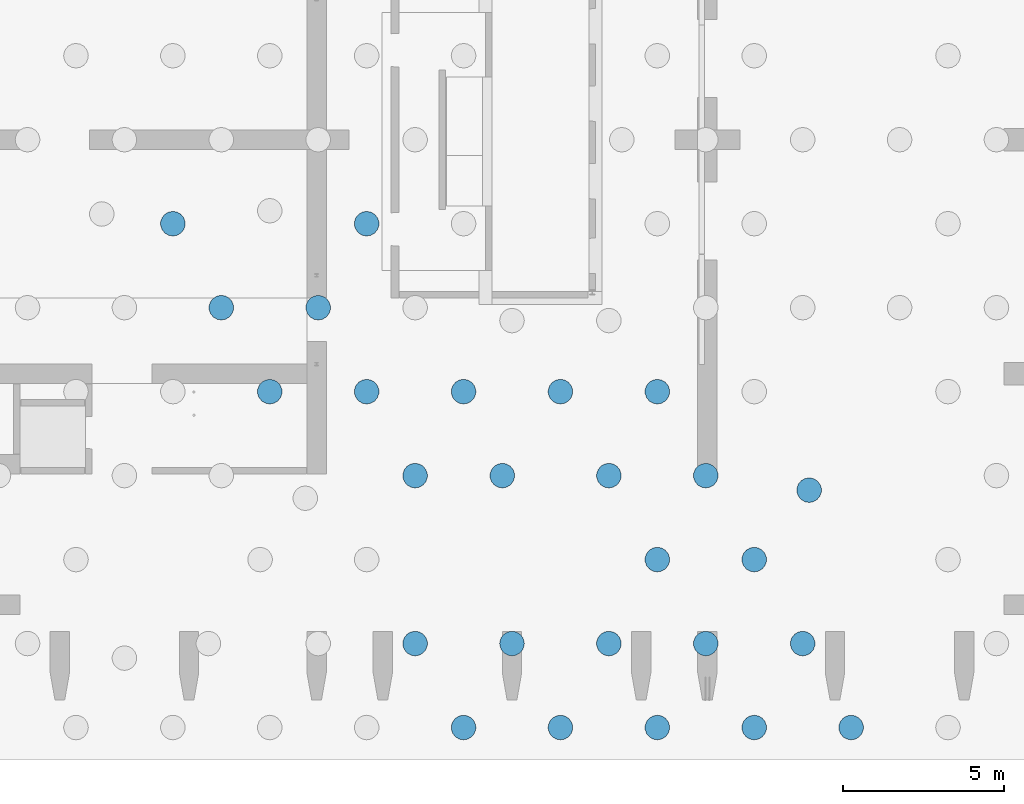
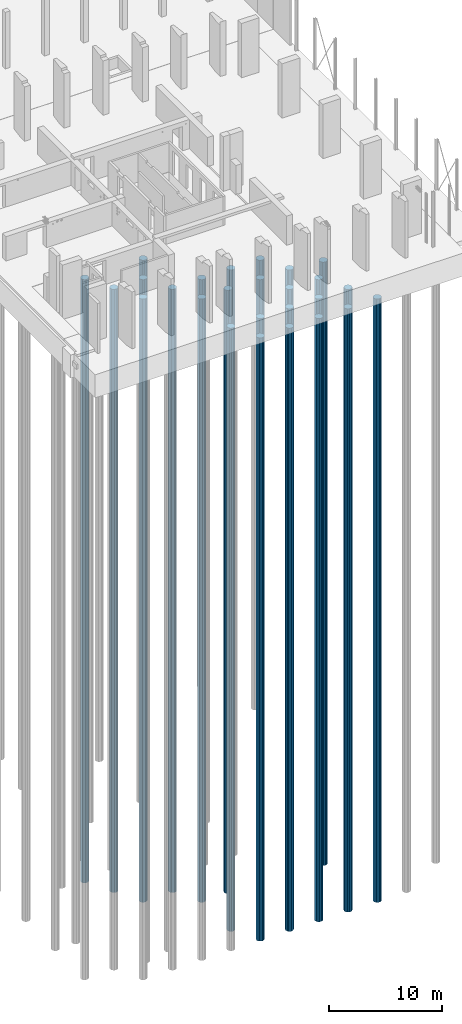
# One storey, part 2 of 26: 26 piles.
"""IFC2X3 building model written with IfcOpenShell, lengths in millimetres."""

from ifc_helpers import new_model, entity, si_unit, converted_unit, derived_unit, direction, frame, origin, place, context, subcontext, project, spatial, polyline, outline, extrude, material, element, save


model = new_model("IFC2X3")

# Units and contexts
model_context = context("Model", 3, precision=0.01, world=origin(), true_north=direction((6.12303176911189e-17, 1.0)))
body_context = subcontext(model_context, "Body", "Model", "MODEL_VIEW")
ifc_project = project(units=[si_unit("LENGTHUNIT", "METRE", prefix="MILLI"), si_unit("AREAUNIT", "SQUARE_METRE"), si_unit("VOLUMEUNIT", "CUBIC_METRE"), converted_unit("PLANEANGLEUNIT", "DEGREE", entity("IfcRatioMeasure", 0.0174532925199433), si_unit("PLANEANGLEUNIT", "RADIAN"), dimensions=[0, 0, 0, 0, 0, 0, 0]), si_unit("MASSUNIT", "GRAM", prefix="KILO"), derived_unit("MASSDENSITYUNIT", [(si_unit("MASSUNIT", "GRAM", prefix="KILO"), 1), (si_unit("LENGTHUNIT", "METRE"), -3)]), si_unit("TIMEUNIT", "SECOND"), si_unit("FREQUENCYUNIT", "HERTZ"), si_unit("THERMODYNAMICTEMPERATUREUNIT", "DEGREE_CELSIUS"), derived_unit("THERMALTRANSMITTANCEUNIT", [(si_unit("MASSUNIT", "GRAM", prefix="KILO"), 1), (si_unit("THERMODYNAMICTEMPERATUREUNIT", "KELVIN"), -1), (si_unit("TIMEUNIT", "SECOND"), -3)]), derived_unit("VOLUMETRICFLOWRATEUNIT", [(si_unit("LENGTHUNIT", "METRE"), 3), (si_unit("TIMEUNIT", "SECOND"), -1)]), si_unit("ELECTRICCURRENTUNIT", "AMPERE"), si_unit("ELECTRICVOLTAGEUNIT", "VOLT"), si_unit("POWERUNIT", "WATT"), si_unit("FORCEUNIT", "NEWTON", prefix="KILO"), si_unit("ILLUMINANCEUNIT", "LUX"), si_unit("LUMINOUSFLUXUNIT", "LUMEN"), si_unit("LUMINOUSINTENSITYUNIT", "CANDELA"), derived_unit("USERDEFINED", [(si_unit("MASSUNIT", "GRAM", prefix="KILO"), -1), (si_unit("LENGTHUNIT", "METRE"), -2), (si_unit("TIMEUNIT", "SECOND"), 3), (si_unit("LUMINOUSFLUXUNIT", "LUMEN"), 1)]), derived_unit("LINEARVELOCITYUNIT", [(si_unit("LENGTHUNIT", "METRE"), 1), (si_unit("TIMEUNIT", "SECOND"), -1)]), si_unit("PRESSUREUNIT", "PASCAL"), derived_unit("USERDEFINED", [(si_unit("LENGTHUNIT", "METRE"), -2), (si_unit("MASSUNIT", "GRAM", prefix="KILO"), 1), (si_unit("TIMEUNIT", "SECOND"), -2)])], contexts=[model_context])

# Site, building, storey
site_placement = place(None, origin())
site = spatial("IfcSite", under=ifc_project, at=site_placement, Name="Default", CompositionType="ELEMENT")
building_placement = place(site_placement, origin())
building = spatial("IfcBuilding", under=site, at=building_placement, Name="niet gebruiken", CompositionType="ELEMENT")
storey_placement = place(building_placement, origin())
storey = spatial("IfcBuildingStorey", under=building, at=storey_placement, Name="00 begane grond", CompositionType="ELEMENT", Elevation=0.0)

# Piles
ifc_material = material(Name="NLRS_f2_beton ihwg")
pile_1_placement = place(storey_placement, origin())
element("IfcPile", 1, at=pile_1_placement, inside=storey, material=ifc_material, Name="NLRS_17.12_SFO_TLB_funderingspaal grondverdringend_gen:Tubex_r762/950", ObjectType="NLRS_17.12_SFO_TLB_funderingspaal grondverdringend_gen:Tubex_r762/950", context=body_context, shape_type="SweptSolid", body=[
    extrude(outline(polyline([(-33.2063379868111, -379.550179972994), (33.2063379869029, -379.550179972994), (161.017557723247, -345.303266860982), (269.407683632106, -269.407683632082), (345.303266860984, -161.017557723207), (379.55017997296, -33.2063379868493), (368.017739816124, 98.6100561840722), (312.096928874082, 218.532622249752), (218.532622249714, 312.096928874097), (98.610056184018, 368.017739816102), (33.2063379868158, 379.550179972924), (-33.2063379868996, 379.550179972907), (-161.017557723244, 345.303266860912), (-269.407683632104, 269.407683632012), (-345.303266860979, 161.017557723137), (-379.550179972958, 33.2063379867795), (-368.017739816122, -98.610056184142), (-312.09692887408, -218.532622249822), (-218.532622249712, -312.096928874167), (-98.6100561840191, -368.017739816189), (-33.2063379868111, -379.550179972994)])), frame((131250.0, 14900.0, -68100.0), z_axis=(0.0, 0.0, 1.0), x_axis=(0.0871557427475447, -0.996194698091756, 0.0)), (0.0, 0.0, 1.0), 65380.0),
])
pile_2_placement = place(storey_placement, origin())
element("IfcPile", 2, at=pile_2_placement, inside=storey, material=ifc_material, Name="NLRS_17.12_SFO_TLB_funderingspaal grondverdringend_gen:Tubex_r762/950", ObjectType="NLRS_17.12_SFO_TLB_funderingspaal grondverdringend_gen:Tubex_r762/950", context=body_context, shape_type="SweptSolid", body=[
    extrude(outline(polyline([(-33.2063379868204, -379.550179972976), (33.2063379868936, -379.550179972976), (161.017557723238, -345.303266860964), (269.407683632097, -269.407683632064), (345.303266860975, -161.017557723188), (379.550179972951, -33.2063379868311), (368.017739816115, 98.6100561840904), (312.096928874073, 218.532622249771), (218.532622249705, 312.096928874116), (98.6100561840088, 368.01773981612), (33.2063379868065, 379.550179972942), (-33.2063379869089, 379.550179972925), (-161.017557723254, 345.30326686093), (-269.407683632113, 269.40768363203), (-345.303266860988, 161.017557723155), (-379.550179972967, 33.2063379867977), (-368.017739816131, -98.6100561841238), (-312.096928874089, -218.532622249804), (-218.532622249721, -312.096928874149), (-98.6100561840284, -368.017739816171), (-33.2063379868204, -379.550179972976)])), frame((137250.0, 14900.0, -68100.0), z_axis=(0.0, 0.0, 1.0), x_axis=(0.0871557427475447, -0.996194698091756, 0.0)), (0.0, 0.0, 1.0), 65380.0),
])
pile_3_placement = place(storey_placement, origin())
element("IfcPile", 3, at=pile_3_placement, inside=storey, material=ifc_material, Name="NLRS_17.12_SFO_TLB_funderingspaal grondverdringend_gen:Tubex_r762/950", ObjectType="NLRS_17.12_SFO_TLB_funderingspaal grondverdringend_gen:Tubex_r762/950", context=body_context, shape_type="SweptSolid", body=[
    extrude(outline(polyline([(-33.2063379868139, -379.550179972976), (33.2063379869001, -379.550179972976), (161.017557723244, -345.303266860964), (269.407683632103, -269.407683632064), (345.303266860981, -161.017557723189), (379.550179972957, -33.2063379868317), (368.017739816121, 98.6100561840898), (312.09692887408, 218.53262224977), (218.532622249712, 312.096928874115), (98.6100561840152, 368.017739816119), (33.206337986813, 379.550179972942), (-33.2063379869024, 379.550179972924), (-161.017557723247, 345.30326686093), (-269.407683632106, 269.40768363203), (-345.303266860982, 161.017557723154), (-379.55017997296, 33.2063379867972), (-368.017739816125, -98.6100561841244), (-312.096928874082, -218.532622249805), (-218.532622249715, -312.09692887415), (-98.6100561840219, -368.017739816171), (-33.2063379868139, -379.550179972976)])), frame((135750.0, 12300.0, -68100.0), z_axis=(0.0, 0.0, 1.0), x_axis=(0.0871557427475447, -0.996194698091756, 0.0)), (0.0, 0.0, 1.0), 65380.0),
])
pile_4_placement = place(storey_placement, origin())
element("IfcPile", 4, at=pile_4_placement, inside=storey, material=ifc_material, Name="NLRS_17.12_SFO_TLB_funderingspaal grondverdringend_gen:Tubex_r762/950", ObjectType="NLRS_17.12_SFO_TLB_funderingspaal grondverdringend_gen:Tubex_r762/950", context=body_context, shape_type="SweptSolid", body=[
    extrude(outline(polyline([(-33.2063379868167, -379.550179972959), (33.2063379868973, -379.550179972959), (161.017557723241, -345.303266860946), (269.4076836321, -269.407683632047), (345.303266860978, -161.017557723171), (379.550179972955, -33.206337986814), (368.017739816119, 98.6100561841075), (312.096928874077, 218.532622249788), (218.532622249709, 312.096928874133), (98.6100561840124, 368.017739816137), (33.2063379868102, 379.550179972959), (-33.2063379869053, 379.550179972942), (-161.01755772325, 345.303266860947), (-269.407683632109, 269.407683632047), (-345.303266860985, 161.017557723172), (-379.550179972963, 33.2063379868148), (-368.017739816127, -98.6100561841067), (-312.096928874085, -218.532622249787), (-218.532622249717, -312.096928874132), (-98.6100561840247, -368.017739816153), (-33.2063379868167, -379.550179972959)])), frame((132750.0, 12300.0, -68100.0), z_axis=(0.0, 0.0, 1.0), x_axis=(0.0871557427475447, -0.996194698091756, 0.0)), (0.0, 0.0, 1.0), 65380.0),
])
pile_5_placement = place(storey_placement, origin())
element("IfcPile", 5, at=pile_5_placement, inside=storey, material=ifc_material, Name="NLRS_17.12_SFO_TLB_funderingspaal grondverdringend_gen:Tubex_r762/950", ObjectType="NLRS_17.12_SFO_TLB_funderingspaal grondverdringend_gen:Tubex_r762/950", context=body_context, shape_type="SweptSolid", body=[
    extrude(outline(polyline([(-33.206337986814, -379.550179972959), (33.206337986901, -379.550179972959), (161.017557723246, -345.303266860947), (269.407683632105, -269.407683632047), (345.303266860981, -161.017557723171), (379.550179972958, -33.2063379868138), (368.017739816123, 98.6100561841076), (312.09692887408, 218.532622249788), (218.532622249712, 312.096928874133), (98.6100561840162, 368.017739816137), (33.2063379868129, 379.550179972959), (-33.2063379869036, 379.550179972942), (-161.017557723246, 345.303266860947), (-269.407683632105, 269.407683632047), (-345.303266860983, 161.017557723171), (-379.550179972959, 33.2063379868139), (-368.017739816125, -98.6100561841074), (-312.096928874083, -218.532622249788), (-218.532622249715, -312.096928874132), (-98.6100561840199, -368.017739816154), (-33.206337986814, -379.550179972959)])), frame((134250.0, 9700.0, -68100.0), z_axis=(0.0, 0.0, 1.0), x_axis=(0.0871557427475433, -0.996194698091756, 0.0)), (0.0, 0.0, 1.0), 65380.0),
])
pile_6_placement = place(storey_placement, origin())
element("IfcPile", 6, at=pile_6_placement, inside=storey, material=ifc_material, Name="NLRS_17.12_SFO_TLB_funderingspaal grondverdringend_gen:Tubex_r762/950", ObjectType="NLRS_17.12_SFO_TLB_funderingspaal grondverdringend_gen:Tubex_r762/950", context=body_context, shape_type="SweptSolid", body=[
    extrude(outline(polyline([(-33.2063379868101, -379.550179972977), (33.2063379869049, -379.550179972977), (161.01755772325, -345.303266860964), (269.407683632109, -269.407683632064), (345.303266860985, -161.017557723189), (379.550179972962, -33.2063379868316), (368.017739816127, 98.6100561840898), (312.096928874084, 218.53262224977), (218.532622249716, 312.096928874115), (98.6100561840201, 368.017739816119), (33.2063379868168, 379.550179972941), (-33.2063379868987, 379.550179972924), (-161.017557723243, 345.303266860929), (-269.407683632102, 269.407683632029), (-345.303266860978, 161.017557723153), (-379.550179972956, 33.2063379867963), (-368.01773981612, -98.6100561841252), (-312.096928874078, -218.532622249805), (-218.53262224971, -312.09692887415), (-98.6100561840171, -368.017739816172), (-33.2063379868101, -379.550179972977)])), frame((137250.0, 9700.0, -68100.0), z_axis=(0.0, 0.0, 1.0), x_axis=(0.0871557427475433, -0.996194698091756, 0.0)), (0.0, 0.0, 1.0), 65380.0),
])
pile_7_placement = place(storey_placement, origin())
element("IfcPile", 7, at=pile_7_placement, inside=storey, material=ifc_material, Name="NLRS_17.12_SFO_TLB_funderingspaal grondverdringend_gen:Tubex_r762/950", ObjectType="NLRS_17.12_SFO_TLB_funderingspaal grondverdringend_gen:Tubex_r762/950", context=body_context, shape_type="SweptSolid", body=[
    extrude(outline(polyline([(-33.2063379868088, -379.550179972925), (33.2063379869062, -379.550179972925), (161.017557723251, -345.303266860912), (269.40768363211, -269.407683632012), (345.303266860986, -161.017557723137), (379.550179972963, -33.2063379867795), (368.017739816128, 98.6100561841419), (312.096928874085, 218.532622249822), (218.532622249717, 312.096928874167), (98.6100561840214, 368.017739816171), (33.2063379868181, 379.550179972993), (-33.2063379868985, 379.550179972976), (-161.017557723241, 345.303266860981), (-269.4076836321, 269.407683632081), (-345.303266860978, 161.017557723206), (-379.550179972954, 33.2063379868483), (-368.01773981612, -98.610056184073), (-312.096928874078, -218.532622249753), (-218.53262224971, -312.096928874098), (-98.6100561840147, -368.01773981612), (-33.2063379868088, -379.550179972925)])), frame((140250.0, 9700.0, -68100.0), z_axis=(0.0, 0.0, 1.0), x_axis=(0.0871557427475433, -0.996194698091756, 0.0)), (0.0, 0.0, 1.0), 65380.0),
])
pile_8_placement = place(storey_placement, origin())
element("IfcPile", 8, at=pile_8_placement, inside=storey, material=ifc_material, Name="NLRS_17.12_SFO_TLB_funderingspaal grondverdringend_gen:Tubex_r762/950", ObjectType="NLRS_17.12_SFO_TLB_funderingspaal grondverdringend_gen:Tubex_r762/950", context=body_context, shape_type="SweptSolid", body=[
    extrude(outline(polyline([(-33.2063379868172, -379.550179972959), (33.2063379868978, -379.550179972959), (161.017557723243, -345.303266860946), (269.407683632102, -269.407683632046), (345.303266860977, -161.017557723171), (379.550179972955, -33.2063379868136), (368.01773981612, 98.6100561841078), (312.096928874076, 218.532622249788), (218.532622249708, 312.096928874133), (98.610056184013, 368.017739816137), (33.2063379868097, 379.550179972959), (-33.2063379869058, 379.550179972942), (-161.017557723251, 345.303266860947), (-269.407683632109, 269.407683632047), (-345.303266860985, 161.017557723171), (-379.550179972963, 33.2063379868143), (-368.017739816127, -98.6100561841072), (-312.096928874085, -218.532622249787), (-218.532622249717, -312.096928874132), (-98.6100561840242, -368.017739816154), (-33.2063379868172, -379.550179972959)])), frame((143250.0, 9700.0, -68100.0), z_axis=(0.0, 0.0, 1.0), x_axis=(0.0871557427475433, -0.996194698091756, 0.0)), (0.0, 0.0, 1.0), 65380.0),
])
pile_9_placement = place(storey_placement, origin())
element("IfcPile", 9, at=pile_9_placement, inside=storey, material=ifc_material, Name="NLRS_17.12_SFO_TLB_funderingspaal grondverdringend_gen:Tubex_r762/950", ObjectType="NLRS_17.12_SFO_TLB_funderingspaal grondverdringend_gen:Tubex_r762/950", context=body_context, shape_type="SweptSolid", body=[
    extrude(outline(polyline([(-33.2063379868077, -379.550179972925), (33.2063379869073, -379.550179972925), (161.017557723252, -345.303266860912), (269.407683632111, -269.407683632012), (345.303266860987, -161.017557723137), (379.550179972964, -33.2063379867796), (368.017739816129, 98.6100561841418), (312.096928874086, 218.532622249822), (218.532622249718, 312.096928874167), (98.6100561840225, 368.017739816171), (33.2063379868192, 379.550179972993), (-33.2063379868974, 379.550179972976), (-161.01755772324, 345.303266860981), (-269.407683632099, 269.407683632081), (-345.303266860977, 161.017557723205), (-379.550179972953, 33.2063379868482), (-368.017739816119, -98.6100561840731), (-312.096928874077, -218.532622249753), (-218.532622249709, -312.096928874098), (-98.6100561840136, -368.01773981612), (-33.2063379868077, -379.550179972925)])), frame((146250.0, 9700.0, -68100.0), z_axis=(0.0, 0.0, 1.0), x_axis=(0.0871557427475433, -0.996194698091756, 0.0)), (0.0, 0.0, 1.0), 65380.0),
])
pile_10_placement = place(storey_placement, origin())
element("IfcPile", 10, at=pile_10_placement, inside=storey, material=ifc_material, Name="NLRS_17.12_SFO_TLB_funderingspaal grondverdringend_gen:Tubex_r762/950", ObjectType="NLRS_17.12_SFO_TLB_funderingspaal grondverdringend_gen:Tubex_r762/950", context=body_context, shape_type="SweptSolid", body=[
    extrude(outline(polyline([(-33.2063379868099, -379.550179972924), (33.2063379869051, -379.550179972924), (161.01755772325, -345.303266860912), (269.407683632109, -269.407683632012), (345.303266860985, -161.017557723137), (379.550179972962, -33.2063379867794), (368.017739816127, 98.610056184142), (312.096928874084, 218.532622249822), (218.532622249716, 312.096928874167), (98.6100561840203, 368.017739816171), (33.206337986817, 379.550179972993), (-33.2063379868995, 379.550179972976), (-161.017557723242, 345.303266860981), (-269.407683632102, 269.407683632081), (-345.303266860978, 161.017557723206), (-379.550179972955, 33.2063379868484), (-368.017739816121, -98.6100561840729), (-312.096928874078, -218.532622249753), (-218.53262224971, -312.096928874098), (-98.6100561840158, -368.01773981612), (-33.2063379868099, -379.550179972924)])), frame((150950.0, 6650.0, -68100.0), z_axis=(0.0, 0.0, 1.0), x_axis=(0.0871557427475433, -0.996194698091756, 0.0)), (0.0, 0.0, 1.0), 65380.0),
])
pile_11_placement = place(storey_placement, origin())
element("IfcPile", 11, at=pile_11_placement, inside=storey, material=ifc_material, Name="NLRS_17.12_SFO_TLB_funderingspaal grondverdringend_gen:Tubex_r762/950", ObjectType="NLRS_17.12_SFO_TLB_funderingspaal grondverdringend_gen:Tubex_r762/950", context=body_context, shape_type="SweptSolid", body=[
    extrude(outline(polyline([(-33.2063379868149, -379.550179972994), (33.2063379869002, -379.550179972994), (161.017557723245, -345.303266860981), (269.407683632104, -269.407683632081), (345.30326686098, -161.017557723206), (379.550179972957, -33.2063379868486), (368.017739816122, 98.6100561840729), (312.096928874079, 218.532622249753), (218.532622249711, 312.096928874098), (98.6100561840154, 368.017739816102), (33.206337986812, 379.550179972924), (-33.2063379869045, 379.550179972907), (-161.017557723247, 345.303266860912), (-269.407683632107, 269.407683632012), (-345.303266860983, 161.017557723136), (-379.55017997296, 33.2063379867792), (-368.017739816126, -98.6100561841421), (-312.096928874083, -218.532622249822), (-218.532622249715, -312.096928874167), (-98.6100561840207, -368.017739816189), (-33.2063379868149, -379.550179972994)])), frame((147750.0, 7100.0, -68100.0), z_axis=(0.0, 0.0, 1.0), x_axis=(0.0871557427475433, -0.996194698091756, 0.0)), (0.0, 0.0, 1.0), 65380.0),
])
pile_12_placement = place(storey_placement, origin())
element("IfcPile", 12, at=pile_12_placement, inside=storey, material=ifc_material, Name="NLRS_17.12_SFO_TLB_funderingspaal grondverdringend_gen:Tubex_r762/950", ObjectType="NLRS_17.12_SFO_TLB_funderingspaal grondverdringend_gen:Tubex_r762/950", context=body_context, shape_type="SweptSolid", body=[
    extrude(outline(polyline([(-33.2063379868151, -379.550179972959), (33.2063379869, -379.550179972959), (161.017557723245, -345.303266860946), (269.407683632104, -269.407683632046), (345.30326686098, -161.017557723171), (379.550179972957, -33.2063379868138), (368.017739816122, 98.6100561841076), (312.096928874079, 218.532622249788), (218.532622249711, 312.096928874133), (98.6100561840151, 368.017739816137), (33.2063379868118, 379.550179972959), (-33.2063379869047, 379.550179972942), (-161.017557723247, 345.303266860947), (-269.407683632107, 269.407683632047), (-345.303266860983, 161.017557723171), (-379.55017997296, 33.206337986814), (-368.017739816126, -98.6100561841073), (-312.096928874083, -218.532622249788), (-218.532622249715, -312.096928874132), (-98.610056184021, -368.017739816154), (-33.2063379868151, -379.550179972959)])), frame((144750.0, 7100.0, -68100.0), z_axis=(0.0, 0.0, 1.0), x_axis=(0.0871557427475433, -0.996194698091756, 0.0)), (0.0, 0.0, 1.0), 65380.0),
])
pile_13_placement = place(storey_placement, origin())
element("IfcPile", 13, at=pile_13_placement, inside=storey, material=ifc_material, Name="NLRS_17.12_SFO_TLB_funderingspaal grondverdringend_gen:Tubex_r762/950", ObjectType="NLRS_17.12_SFO_TLB_funderingspaal grondverdringend_gen:Tubex_r762/950", context=body_context, shape_type="SweptSolid", body=[
    extrude(outline(polyline([(-33.2063379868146, -379.550179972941), (33.2063379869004, -379.550179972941), (161.017557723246, -345.303266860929), (269.407683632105, -269.407683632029), (345.30326686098, -161.017557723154), (379.550179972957, -33.2063379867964), (368.017739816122, 98.610056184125), (312.096928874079, 218.532622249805), (218.532622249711, 312.09692887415), (98.6100561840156, 368.017739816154), (33.2063379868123, 379.550179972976), (-33.2063379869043, 379.550179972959), (-161.017557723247, 345.303266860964), (-269.407683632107, 269.407683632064), (-345.303266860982, 161.017557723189), (-379.55017997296, 33.2063379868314), (-368.017739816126, -98.6100561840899), (-312.096928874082, -218.53262224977), (-218.532622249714, -312.096928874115), (-98.6100561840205, -368.017739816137), (-33.2063379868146, -379.550179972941)])), frame((141450.0, 7100.0, -68100.0), z_axis=(0.0, 0.0, 1.0), x_axis=(0.0871557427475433, -0.996194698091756, 0.0)), (0.0, 0.0, 1.0), 65380.0),
])
pile_14_placement = place(storey_placement, origin())
element("IfcPile", 14, at=pile_14_placement, inside=storey, material=ifc_material, Name="NLRS_17.12_SFO_TLB_funderingspaal grondverdringend_gen:Tubex_r762/950", ObjectType="NLRS_17.12_SFO_TLB_funderingspaal grondverdringend_gen:Tubex_r762/950", context=body_context, shape_type="SweptSolid", body=[
    extrude(outline(polyline([(-33.2063379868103, -379.550179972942), (33.2063379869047, -379.550179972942), (161.01755772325, -345.303266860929), (269.407683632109, -269.40768363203), (345.303266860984, -161.017557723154), (379.550179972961, -33.2063379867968), (368.017739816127, 98.6100561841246), (312.096928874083, 218.532622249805), (218.532622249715, 312.09692887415), (98.6100561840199, 368.017739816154), (33.2063379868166, 379.550179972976), (-33.2063379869, 379.550179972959), (-161.017557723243, 345.303266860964), (-269.407683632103, 269.407683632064), (-345.303266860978, 161.017557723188), (-379.550179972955, 33.206337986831), (-368.017739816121, -98.6100561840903), (-312.096928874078, -218.532622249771), (-218.53262224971, -312.096928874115), (-98.6100561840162, -368.017739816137), (-33.2063379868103, -379.550179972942)])), frame((138750.0, 7100.0, -68100.0), z_axis=(0.0, 0.0, 1.0), x_axis=(0.0871557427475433, -0.996194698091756, 0.0)), (0.0, 0.0, 1.0), 65380.0),
])
pile_15_placement = place(storey_placement, origin())
element("IfcPile", 15, at=pile_15_placement, inside=storey, material=ifc_material, Name="NLRS_17.12_SFO_TLB_funderingspaal grondverdringend_gen:Tubex_r762/950", ObjectType="NLRS_17.12_SFO_TLB_funderingspaal grondverdringend_gen:Tubex_r762/950", context=body_context, shape_type="SweptSolid", body=[
    extrude(outline(polyline([(-33.2063379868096, -379.550179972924), (33.2063379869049, -379.550179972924), (161.01755772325, -345.303266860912), (269.407683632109, -269.407683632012), (345.303266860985, -161.017557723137), (379.550179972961, -33.2063379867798), (368.017739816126, 98.6100561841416), (312.096928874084, 218.532622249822), (218.532622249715, 312.096928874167), (98.61005618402, 368.017739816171), (33.2063379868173, 379.550179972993), (-33.2063379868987, 379.550179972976), (-161.017557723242, 345.303266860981), (-269.407683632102, 269.407683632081), (-345.303266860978, 161.017557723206), (-379.550179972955, 33.2063379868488), (-368.01773981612, -98.6100561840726), (-312.096928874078, -218.532622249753), (-218.53262224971, -312.096928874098), (-98.6100561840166, -368.017739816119), (-33.2063379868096, -379.550179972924)])), frame((146250.0, 4500.0, -68100.0), z_axis=(0.0, 0.0, 1.0), x_axis=(0.087155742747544, -0.996194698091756, 0.0)), (0.0, 0.0, 1.0), 65380.0),
])
pile_16_placement = place(storey_placement, origin())
element("IfcPile", 16, at=pile_16_placement, inside=storey, material=ifc_material, Name="NLRS_17.12_SFO_TLB_funderingspaal grondverdringend_gen:Tubex_r762/950", ObjectType="NLRS_17.12_SFO_TLB_funderingspaal grondverdringend_gen:Tubex_r762/950", context=body_context, shape_type="SweptSolid", body=[
    extrude(outline(polyline([(-33.2063379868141, -379.550179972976), (33.2063379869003, -379.550179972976), (161.017557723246, -345.303266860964), (269.407683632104, -269.407683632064), (345.30326686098, -161.017557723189), (379.550179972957, -33.2063379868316), (368.017739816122, 98.6100561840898), (312.096928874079, 218.53262224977), (218.532622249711, 312.096928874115), (98.6100561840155, 368.017739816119), (33.2063379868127, 379.550179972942), (-33.2063379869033, 379.550179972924), (-161.017557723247, 345.303266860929), (-269.407683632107, 269.40768363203), (-345.303266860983, 161.017557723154), (-379.55017997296, 33.206337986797), (-368.017739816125, -98.6100561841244), (-312.096928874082, -218.532622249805), (-218.532622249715, -312.09692887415), (-98.6100561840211, -368.017739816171), (-33.2063379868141, -379.550179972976)])), frame((149250.0, 4500.0, -68100.0), z_axis=(0.0, 0.0, 1.0), x_axis=(0.087155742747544, -0.996194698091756, 0.0)), (0.0, 0.0, 1.0), 65380.0),
])
pile_17_placement = place(storey_placement, origin())
element("IfcPile", 17, at=pile_17_placement, inside=storey, material=ifc_material, Name="NLRS_17.12_SFO_TLB_funderingspaal grondverdringend_gen:Tubex_r762/950", ObjectType="NLRS_17.12_SFO_TLB_funderingspaal grondverdringend_gen:Tubex_r762/950", context=body_context, shape_type="SweptSolid", body=[
    extrude(outline(polyline([(-33.2063379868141, -379.550179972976), (33.2063379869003, -379.550179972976), (161.017557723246, -345.303266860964), (269.407683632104, -269.407683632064), (345.30326686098, -161.017557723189), (379.550179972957, -33.2063379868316), (368.017739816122, 98.6100561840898), (312.096928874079, 218.53262224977), (218.532622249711, 312.096928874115), (98.6100561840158, 368.017739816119), (33.2063379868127, 379.550179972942), (-33.2063379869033, 379.550179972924), (-161.017557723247, 345.303266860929), (-269.407683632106, 269.40768363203), (-345.303266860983, 161.017557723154), (-379.55017997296, 33.206337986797), (-368.017739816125, -98.6100561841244), (-312.096928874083, -218.532622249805), (-218.532622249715, -312.09692887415), (-98.6100561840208, -368.017739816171), (-33.2063379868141, -379.550179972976)])), frame((150750.0, 1900.0, -68100.0), z_axis=(0.0, 0.0, 1.0), x_axis=(0.087155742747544, -0.996194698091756, 0.0)), (0.0, 0.0, 1.0), 65380.0),
])
pile_18_placement = place(storey_placement, origin())
element("IfcPile", 18, at=pile_18_placement, inside=storey, material=ifc_material, Name="NLRS_17.12_SFO_TLB_funderingspaal grondverdringend_gen:Tubex_r762/950", ObjectType="NLRS_17.12_SFO_TLB_funderingspaal grondverdringend_gen:Tubex_r762/950", context=body_context, shape_type="SweptSolid", body=[
    extrude(outline(polyline([(-33.2063379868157, -379.550179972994), (33.2063379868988, -379.550179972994), (161.017557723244, -345.303266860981), (269.407683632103, -269.407683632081), (345.303266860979, -161.017557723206), (379.550179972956, -33.2063379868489), (368.017739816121, 98.6100561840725), (312.096928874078, 218.532622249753), (218.532622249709, 312.096928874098), (98.6100561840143, 368.017739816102), (33.2063379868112, 379.550179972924), (-33.2063379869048, 379.550179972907), (-161.017557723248, 345.303266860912), (-269.407683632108, 269.407683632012), (-345.303266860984, 161.017557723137), (-379.550179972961, 33.2063379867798), (-368.017739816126, -98.6100561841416), (-312.096928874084, -218.532622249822), (-218.532622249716, -312.096928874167), (-98.6100561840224, -368.017739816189), (-33.2063379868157, -379.550179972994)])), frame((147750.0, 1900.0, -68100.0), z_axis=(0.0, 0.0, 1.0), x_axis=(0.087155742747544, -0.996194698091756, 0.0)), (0.0, 0.0, 1.0), 65380.0),
])
pile_19_placement = place(storey_placement, origin())
element("IfcPile", 19, at=pile_19_placement, inside=storey, material=ifc_material, Name="NLRS_17.12_SFO_TLB_funderingspaal grondverdringend_gen:Tubex_r762/950", ObjectType="NLRS_17.12_SFO_TLB_funderingspaal grondverdringend_gen:Tubex_r762/950", context=body_context, shape_type="SweptSolid", body=[
    extrude(outline(polyline([(-33.2063379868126, -379.550179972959), (33.2063379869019, -379.550179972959), (161.017557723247, -345.303266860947), (269.407683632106, -269.407683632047), (345.303266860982, -161.017557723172), (379.550179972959, -33.2063379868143), (368.017739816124, 98.6100561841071), (312.096928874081, 218.532622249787), (218.532622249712, 312.096928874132), (98.6100561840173, 368.017739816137), (33.2063379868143, 379.550179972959), (-33.2063379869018, 379.550179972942), (-161.017557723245, 345.303266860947), (-269.407683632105, 269.407683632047), (-345.303266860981, 161.017557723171), (-379.550179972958, 33.2063379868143), (-368.017739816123, -98.6100561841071), (-312.096928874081, -218.532622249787), (-218.532622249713, -312.096928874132), (-98.6100561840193, -368.017739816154), (-33.2063379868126, -379.550179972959)])), frame((144750.0, 1900.0, -68100.0), z_axis=(0.0, 0.0, 1.0), x_axis=(0.087155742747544, -0.996194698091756, 0.0)), (0.0, 0.0, 1.0), 65380.0),
])
pile_20_placement = place(storey_placement, origin())
element("IfcPile", 20, at=pile_20_placement, inside=storey, material=ifc_material, Name="NLRS_17.12_SFO_TLB_funderingspaal grondverdringend_gen:Tubex_r762/950", ObjectType="NLRS_17.12_SFO_TLB_funderingspaal grondverdringend_gen:Tubex_r762/950", context=body_context, shape_type="SweptSolid", body=[
    extrude(outline(polyline([(-33.2063379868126, -379.550179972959), (33.2063379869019, -379.550179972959), (161.017557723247, -345.303266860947), (269.407683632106, -269.407683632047), (345.303266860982, -161.017557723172), (379.550179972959, -33.2063379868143), (368.017739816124, 98.6100561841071), (312.096928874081, 218.532622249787), (218.532622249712, 312.096928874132), (98.6100561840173, 368.017739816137), (33.2063379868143, 379.550179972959), (-33.2063379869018, 379.550179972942), (-161.017557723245, 345.303266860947), (-269.407683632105, 269.407683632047), (-345.303266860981, 161.017557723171), (-379.550179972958, 33.2063379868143), (-368.017739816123, -98.6100561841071), (-312.096928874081, -218.532622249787), (-218.532622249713, -312.096928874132), (-98.6100561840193, -368.017739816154), (-33.2063379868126, -379.550179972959)])), frame((141750.0, 1900.0, -68100.0), z_axis=(0.0, 0.0, 1.0), x_axis=(0.087155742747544, -0.996194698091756, 0.0)), (0.0, 0.0, 1.0), 65380.0),
])
pile_21_placement = place(storey_placement, origin())
element("IfcPile", 21, at=pile_21_placement, inside=storey, material=ifc_material, Name="NLRS_17.12_SFO_TLB_funderingspaal grondverdringend_gen:Tubex_r762/950", ObjectType="NLRS_17.12_SFO_TLB_funderingspaal grondverdringend_gen:Tubex_r762/950", context=body_context, shape_type="SweptSolid", body=[
    extrude(outline(polyline([(-33.2063379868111, -379.550179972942), (33.2063379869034, -379.550179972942), (161.017557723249, -345.30326686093), (269.407683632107, -269.40768363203), (345.303266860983, -161.017557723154), (379.55017997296, -33.2063379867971), (368.017739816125, 98.6100561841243), (312.096928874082, 218.532622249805), (218.532622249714, 312.09692887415), (98.6100561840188, 368.017739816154), (33.2063379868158, 379.550179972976), (-33.2063379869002, 379.550179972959), (-161.017557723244, 345.303266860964), (-269.407683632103, 269.407683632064), (-345.30326686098, 161.017557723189), (-379.550179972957, 33.2063379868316), (-368.017739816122, -98.6100561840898), (-312.09692887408, -218.53262224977), (-218.532622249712, -312.096928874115), (-98.6100561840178, -368.017739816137), (-33.2063379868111, -379.550179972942)])), frame((138750.0, 1900.0, -68100.0), z_axis=(0.0, 0.0, 1.0), x_axis=(0.087155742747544, -0.996194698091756, 0.0)), (0.0, 0.0, 1.0), 65380.0),
])
pile_22_placement = place(storey_placement, origin())
element("IfcPile", 22, at=pile_22_placement, inside=storey, material=ifc_material, Name="NLRS_17.12_SFO_TLB_funderingspaal grondverdringend_gen:Tubex_r762/950", ObjectType="NLRS_17.12_SFO_TLB_funderingspaal grondverdringend_gen:Tubex_r762/950", context=body_context, shape_type="SweptSolid", body=[
    extrude(outline(polyline([(-33.2063379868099, -379.550179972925), (33.2063379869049, -379.550179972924), (161.01755772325, -345.303266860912), (269.407683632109, -269.407683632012), (345.303266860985, -161.017557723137), (379.550179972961, -33.2063379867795), (368.017739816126, 98.6100561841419), (312.096928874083, 218.532622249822), (218.532622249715, 312.096928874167), (98.6100561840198, 368.017739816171), (33.206337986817, 379.550179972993), (-33.2063379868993, 379.550179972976), (-161.017557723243, 345.303266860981), (-269.407683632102, 269.407683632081), (-345.303266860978, 161.017557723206), (-379.550179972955, 33.2063379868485), (-368.017739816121, -98.6100561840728), (-312.096928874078, -218.532622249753), (-218.53262224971, -312.096928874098), (-98.6100561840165, -368.017739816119), (-33.2063379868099, -379.550179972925)])), frame((140250.0, -700.0, -68100.0), z_axis=(0.0, 0.0, 1.0), x_axis=(0.0871557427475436, -0.996194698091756, 0.0)), (0.0, 0.0, 1.0), 65380.0),
])
pile_23_placement = place(storey_placement, origin())
element("IfcPile", 23, at=pile_23_placement, inside=storey, material=ifc_material, Name="NLRS_17.12_SFO_TLB_funderingspaal grondverdringend_gen:Tubex_r762/950", ObjectType="NLRS_17.12_SFO_TLB_funderingspaal grondverdringend_gen:Tubex_r762/950", context=body_context, shape_type="SweptSolid", body=[
    extrude(outline(polyline([(-33.2063379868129, -379.550179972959), (33.2063379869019, -379.550179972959), (161.017557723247, -345.303266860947), (269.407683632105, -269.407683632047), (345.303266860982, -161.017557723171), (379.550179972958, -33.206337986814), (368.017739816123, 98.6100561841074), (312.09692887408, 218.532622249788), (218.532622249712, 312.096928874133), (98.6100561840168, 368.017739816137), (33.206337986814, 379.550179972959), (-33.2063379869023, 379.550179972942), (-161.017557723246, 345.303266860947), (-269.407683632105, 269.407683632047), (-345.303266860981, 161.017557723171), (-379.550179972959, 33.206337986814), (-368.017739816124, -98.6100561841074), (-312.096928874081, -218.532622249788), (-218.532622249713, -312.096928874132), (-98.6100561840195, -368.017739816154), (-33.2063379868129, -379.550179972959)])), frame((143250.0, -700.0, -68100.0), z_axis=(0.0, 0.0, 1.0), x_axis=(0.0871557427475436, -0.996194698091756, 0.0)), (0.0, 0.0, 1.0), 65380.0),
])
pile_24_placement = place(storey_placement, origin())
element("IfcPile", 24, at=pile_24_placement, inside=storey, material=ifc_material, Name="NLRS_17.12_SFO_TLB_funderingspaal grondverdringend_gen:Tubex_r762/950", ObjectType="NLRS_17.12_SFO_TLB_funderingspaal grondverdringend_gen:Tubex_r762/950", context=body_context, shape_type="SweptSolid", body=[
    extrude(outline(polyline([(-33.2063379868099, -379.550179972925), (33.2063379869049, -379.550179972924), (161.01755772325, -345.303266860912), (269.407683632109, -269.407683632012), (345.303266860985, -161.017557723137), (379.550179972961, -33.2063379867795), (368.017739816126, 98.6100561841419), (312.096928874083, 218.532622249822), (218.532622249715, 312.096928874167), (98.6100561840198, 368.017739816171), (33.206337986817, 379.550179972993), (-33.2063379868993, 379.550179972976), (-161.017557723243, 345.303266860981), (-269.407683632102, 269.407683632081), (-345.303266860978, 161.017557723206), (-379.550179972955, 33.2063379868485), (-368.017739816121, -98.6100561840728), (-312.096928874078, -218.532622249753), (-218.53262224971, -312.096928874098), (-98.6100561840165, -368.017739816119), (-33.2063379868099, -379.550179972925)])), frame((146250.0, -700.0, -68100.0), z_axis=(0.0, 0.0, 1.0), x_axis=(0.0871557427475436, -0.996194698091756, 0.0)), (0.0, 0.0, 1.0), 65380.0),
])
pile_25_placement = place(storey_placement, origin())
element("IfcPile", 25, at=pile_25_placement, inside=storey, material=ifc_material, Name="NLRS_17.12_SFO_TLB_funderingspaal grondverdringend_gen:Tubex_r762/950", ObjectType="NLRS_17.12_SFO_TLB_funderingspaal grondverdringend_gen:Tubex_r762/950", context=body_context, shape_type="SweptSolid", body=[
    extrude(outline(polyline([(-33.2063379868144, -379.550179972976), (33.2063379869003, -379.550179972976), (161.017557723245, -345.303266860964), (269.407683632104, -269.407683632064), (345.30326686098, -161.017557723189), (379.550179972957, -33.2063379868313), (368.017739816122, 98.6100561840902), (312.096928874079, 218.53262224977), (218.532622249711, 312.096928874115), (98.6100561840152, 368.01773981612), (33.2063379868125, 379.550179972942), (-33.2063379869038, 379.550179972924), (-161.017557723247, 345.303266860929), (-269.407683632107, 269.407683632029), (-345.303266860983, 161.017557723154), (-379.55017997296, 33.2063379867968), (-368.017739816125, -98.6100561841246), (-312.096928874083, -218.532622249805), (-218.532622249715, -312.09692887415), (-98.610056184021, -368.017739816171), (-33.2063379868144, -379.550179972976)])), frame((149250.0, -700.0, -68100.0), z_axis=(0.0, 0.0, 1.0), x_axis=(0.0871557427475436, -0.996194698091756, 0.0)), (0.0, 0.0, 1.0), 65380.0),
])
pile_26_placement = place(storey_placement, origin())
element("IfcPile", 26, at=pile_26_placement, inside=storey, material=ifc_material, Name="NLRS_17.12_SFO_TLB_funderingspaal grondverdringend_gen:Tubex_r762/950", ObjectType="NLRS_17.12_SFO_TLB_funderingspaal grondverdringend_gen:Tubex_r762/950", context=body_context, shape_type="SweptSolid", body=[
    extrude(outline(polyline([(-33.2063379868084, -379.550179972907), (33.2063379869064, -379.550179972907), (161.017557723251, -345.303266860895), (269.40768363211, -269.407683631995), (345.303266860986, -161.017557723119), (379.550179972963, -33.2063379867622), (368.017739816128, 98.6100561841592), (312.096928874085, 218.532622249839), (218.532622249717, 312.096928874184), (98.6100561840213, 368.017739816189), (33.2063379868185, 379.550179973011), (-33.2063379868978, 379.550179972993), (-161.017557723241, 345.303266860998), (-269.407683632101, 269.407683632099), (-345.303266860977, 161.017557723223), (-379.550179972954, 33.2063379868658), (-368.017739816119, -98.6100561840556), (-312.096928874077, -218.532622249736), (-218.532622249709, -312.096928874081), (-98.610056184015, -368.017739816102), (-33.2063379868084, -379.550179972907)])), frame((152250.0, -700.0, -68100.0), z_axis=(0.0, 0.0, 1.0), x_axis=(0.0871557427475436, -0.996194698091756, 0.0)), (0.0, 0.0, 1.0), 65380.0),
])

save(model, "model.ifc")
